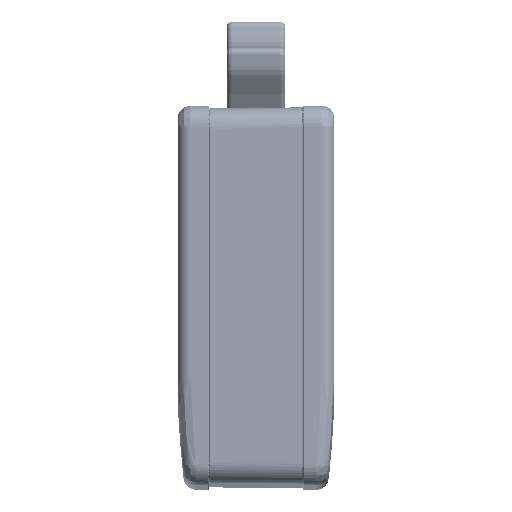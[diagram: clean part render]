
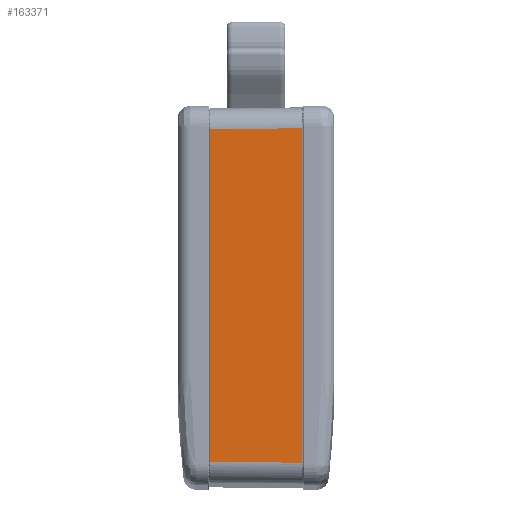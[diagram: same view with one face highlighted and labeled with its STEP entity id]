
A CAD part, top view. The second image highlights one B-rep face of the part: STEP entity #163371.
In plain terms, the highlighted planar face has unit normal (-0.009, 0, 1) as drawn and (0.009, 0, -1) by its records, which use the part's own axes.
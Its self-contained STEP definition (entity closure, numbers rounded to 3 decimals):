
#116209=CARTESIAN_POINT('',(3.097,34.128,
0.172));
#116218=CARTESIAN_POINT('',(11.851,34.051,
0.249));
#116278=DIRECTION('',(0.,1.,0.));
#116279=VECTOR('',#116278,31.956);
#116280=CARTESIAN_POINT('',(3.097,2.172,
0.172));
#116281=LINE('',#116280,#116279);
#116285=DIRECTION('',(1.,0.009,0.009));
#116286=VECTOR('',#116285,8.755);
#116287=CARTESIAN_POINT('',(3.097,2.172,
0.172));
#116288=LINE('',#116287,#116286);
#116292=DIRECTION('',(0.,1.,0.));
#116293=VECTOR('',#116292,31.803);
#116294=CARTESIAN_POINT('',(11.851,2.249,
0.249));
#116295=LINE('',#116294,#116293);
#116299=DIRECTION('',(1.,-0.009,0.009));
#116300=VECTOR('',#116299,8.755);
#116301=CARTESIAN_POINT('',(3.097,34.128,
0.172));
#116302=LINE('',#116301,#116300);
#157470=CARTESIAN_POINT('',(11.851,2.249,
0.249));
#157479=CARTESIAN_POINT('',(3.097,2.172,
0.172));
#159897=VERTEX_POINT('',#116218);
#159968=VERTEX_POINT('',#157470);
#161014=VERTEX_POINT('',#116209);
#161065=VERTEX_POINT('',#157479);
#163357=CARTESIAN_POINT('',(12.,36.05,0.25));
#163358=DIRECTION('',(-0.009,0.,1.));
#163359=DIRECTION('',(0.,1.,0.));
#163360=AXIS2_PLACEMENT_3D('',#163357,#163358,#163359);
#163361=PLANE('',#163360);
#163363=ORIENTED_EDGE('',*,*,#163362,.F.);
#163365=ORIENTED_EDGE('',*,*,#163364,.T.);
#163367=ORIENTED_EDGE('',*,*,#163366,.T.);
#163368=ORIENTED_EDGE('',*,*,#163344,.F.);
#163369=EDGE_LOOP('',(#163363,#163365,#163367,#163368));
#163370=FACE_OUTER_BOUND('',#163369,.F.);
#163344=EDGE_CURVE('',#161014,#159897,#116302,.T.);
#163362=EDGE_CURVE('',#161065,#161014,#116281,.T.);
#163364=EDGE_CURVE('',#161065,#159968,#116288,.T.);
#163366=EDGE_CURVE('',#159968,#159897,#116295,.T.);
#163371=ADVANCED_FACE('',(#163370),#163361,.F.);
